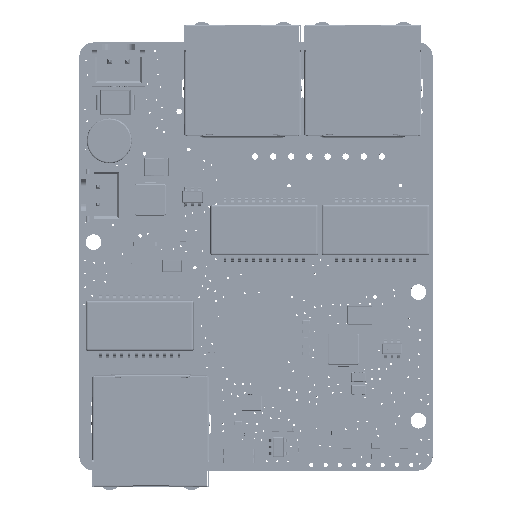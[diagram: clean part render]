
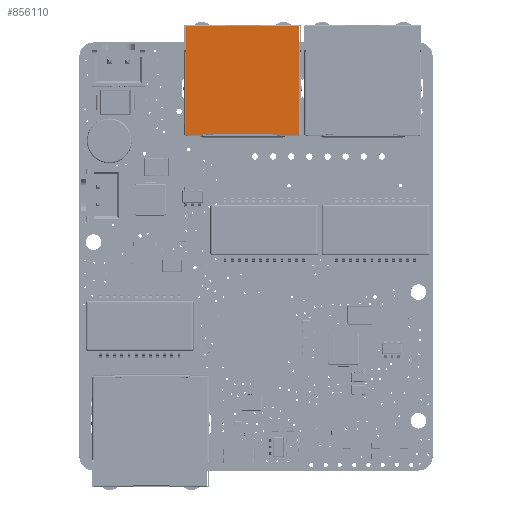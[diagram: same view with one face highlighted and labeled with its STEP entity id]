
A CAD part, top view. The second image highlights one B-rep face of the part: STEP entity #856110.
In plain terms, the highlighted free-form (B-spline) face has degree [1, 1] with [2, 2] control points.
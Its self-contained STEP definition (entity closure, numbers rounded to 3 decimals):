
#826266 = ORIENTED_EDGE('NONE',*,*,#833295,.T.) ;
#826643 = ORIENTED_EDGE('NONE',*,*,#833783,.T.) ;
#828220 = B_SPLINE_CURVE_WITH_KNOTS('NONE',3,(#859156,#860155,#871281,#840775,#856315,#859900),.UNSPECIFIED.,.F.,.F.,(4,2,4),(0.,0.5,1.),.UNSPECIFIED.) ;
#828723 = ORIENTED_EDGE('NONE',*,*,#841971,.F.) ;
#828810=CARTESIAN_POINT('NONE',(-4.809,15.069,12.8));
#829463 = B_SPLINE_SURFACE_WITH_KNOTS('NONE',1,1,((#858016,#830954),(#845871,#861330)),.UNSPECIFIED.,.F.,.F.,.F.,(2,2),(2,2),(-0.303,15.459),(-0.318,16.218),.UNSPECIFIED.) ;
#829900 = VERTEX_POINT('NONE',#865377) ;
#830954=CARTESIAN_POINT('NONE',(8.268,-0.253,12.8));
#832320=CARTESIAN_POINT('NONE',(7.95,0.05,12.8));
#832847=CARTESIAN_POINT('NONE',(-7.95,15.206,12.8));
#833293=CARTESIAN_POINT('NONE',(7.95,3.561,12.8));
#833295 = EDGE_CURVE('NONE',#843823,#829900,#835496,.T.) ;
#833783 = EDGE_CURVE('NONE',#850740,#867604,#834216,.T.) ;
#834139=CARTESIAN_POINT('NONE',(-2.5,0.05,12.8));
#834216 = B_SPLINE_CURVE_WITH_KNOTS('NONE',3,(#858455,#871808,#852044,#860198,#828810,#836743),.UNSPECIFIED.,.F.,.F.,(4,2,4),(0.,0.5,1.),.UNSPECIFIED.) ;
#834604 = EDGE_CURVE('NONE',#857377,#841663,#861496,.T.) ;
#834661=CARTESIAN_POINT('NONE',(2.5,0.05,12.8));
#834910=CARTESIAN_POINT('NONE',(-7.95,15.206,12.8));
#835392=CARTESIAN_POINT('NONE',(-4.956,15.206,12.8));
#835496 = B_SPLINE_CURVE_WITH_KNOTS('NONE',1,(#834661,#868731),.UNSPECIFIED.,.F.,.F.,(2,2),(0.,1.),.UNSPECIFIED.) ;
#835550 = VERTEX_POINT('NONE',#861234) ;
#836290 = ORIENTED_EDGE('NONE',*,*,#852680,.T.) ;
#836579 = EDGE_CURVE('NONE',#867604,#856640,#849186,.T.) ;
#836743=CARTESIAN_POINT('NONE',(-4.767,15.07,12.8));
#836944=CARTESIAN_POINT('NONE',(7.95,0.05,12.8));
#837140 = ORIENTED_EDGE('NONE',*,*,#836579,.T.) ;
#839910 = EDGE_CURVE('NONE',#835550,#849646,#850449,.T.) ;
#839942=CARTESIAN_POINT('NONE',(-4.767,15.07,12.8));
#840439=CARTESIAN_POINT('NONE',(-7.95,0.05,12.8));
#840775=CARTESIAN_POINT('NONE',(5.485,15.133,12.8));
#840958 = FACE_OUTER_BOUND('NONE',#844378,.T.) ;
#841663 = VERTEX_POINT('NONE',#845403) ;
#841971 = EDGE_CURVE('NONE',#857377,#829900,#862952,.T.) ;
#843823 = VERTEX_POINT('NONE',#868999) ;
#843899=CARTESIAN_POINT('NONE',(7.95,3.561,12.8));
#844378 = EDGE_LOOP('NONE',(#826266,#828723,#857255,#844505,#857151,#826643,#837140,#836290,#869562,#854253,#873247,#853549)) ;
#844505 = ORIENTED_EDGE('NONE',*,*,#846140,.T.) ;
#844993=CARTESIAN_POINT('NONE',(2.5,0.05,12.8));
#845403=CARTESIAN_POINT('NONE',(-7.95,3.561,12.8));
#845871=CARTESIAN_POINT('NONE',(-8.268,15.509,12.8));
#846140 = EDGE_CURVE('NONE',#841663,#860808,#874687,.T.) ;
#849186 = B_SPLINE_CURVE_WITH_KNOTS('NONE',1,(#839942,#875036),.UNSPECIFIED.,.F.,.F.,(2,2),(0.,1.),.UNSPECIFIED.) ;
#849646 = VERTEX_POINT('NONE',#833293) ;
#849833 = B_SPLINE_CURVE_WITH_KNOTS('NONE',1,(#843899,#832320),.UNSPECIFIED.,.F.,.F.,(2,2),(0.,1.),.UNSPECIFIED.) ;
#850449 = B_SPLINE_CURVE_WITH_KNOTS('NONE',1,(#873192,#866824),.UNSPECIFIED.,.F.,.F.,(2,2),(0.,1.),.UNSPECIFIED.) ;
#850740 = VERTEX_POINT('NONE',#835392) ;
#852044=CARTESIAN_POINT('NONE',(-4.919,15.133,12.8));
#852680 = EDGE_CURVE('NONE',#856640,#875072,#828220,.T.) ;
#853097=CARTESIAN_POINT('NONE',(-4.956,15.206,12.8));
#853308=CARTESIAN_POINT('NONE',(7.95,0.05,12.8));
#853549 = ORIENTED_EDGE('NONE',*,*,#871749,.F.) ;
#853679=CARTESIAN_POINT('NONE',(-7.95,15.206,12.8));
#854253 = ORIENTED_EDGE('NONE',*,*,#839910,.T.) ;
#855136 = B_SPLINE_CURVE_WITH_KNOTS('NONE',1,(#844993,#853308),.UNSPECIFIED.,.F.,.F.,(2,2),(0.,1.),.UNSPECIFIED.) ;
#855700 = VERTEX_POINT('NONE',#836944) ;
#856110 = ADVANCED_FACE('NONE',(#840958),#829463,.T.) ;
#856315=CARTESIAN_POINT('NONE',(5.51,15.166,12.8));
#856328=CARTESIAN_POINT('NONE',(-7.95,3.561,12.8));
#856640 = VERTEX_POINT('NONE',#873680) ;
#857151 = ORIENTED_EDGE('NONE',*,*,#871238,.T.) ;
#857255 = ORIENTED_EDGE('NONE',*,*,#834604,.T.) ;
#857377 = VERTEX_POINT('NONE',#858394) ;
#858016=CARTESIAN_POINT('NONE',(-8.268,-0.253,12.8));
#858056=CARTESIAN_POINT('NONE',(5.522,15.206,12.8));
#858394=CARTESIAN_POINT('NONE',(-7.95,0.05,12.8));
#858455=CARTESIAN_POINT('NONE',(-4.956,15.206,12.8));
#859142=CARTESIAN_POINT('NONE',(5.522,15.206,12.8));
#859156=CARTESIAN_POINT('NONE',(5.333,15.07,12.8));
#859900=CARTESIAN_POINT('NONE',(5.522,15.206,12.8));
#860155=CARTESIAN_POINT('NONE',(5.375,15.069,12.8));
#860198=CARTESIAN_POINT('NONE',(-4.848,15.082,12.8));
#860808 = VERTEX_POINT('NONE',#853679) ;
#861102 = EDGE_CURVE('NONE',#849646,#855700,#849833,.T.) ;
#861234=CARTESIAN_POINT('NONE',(7.95,15.206,12.8));
#861330=CARTESIAN_POINT('NONE',(8.268,15.509,12.8));
#861496 = B_SPLINE_CURVE_WITH_KNOTS('NONE',1,(#840439,#874534),.UNSPECIFIED.,.F.,.F.,(2,2),(0.,1.),.UNSPECIFIED.) ;
#862365 = B_SPLINE_CURVE_WITH_KNOTS('NONE',1,(#859142,#874634),.UNSPECIFIED.,.F.,.F.,(2,2),(0.,1.),.UNSPECIFIED.) ;
#862952 = B_SPLINE_CURVE_WITH_KNOTS('NONE',1,(#869218,#834139),.UNSPECIFIED.,.F.,.F.,(2,2),(0.,1.),.UNSPECIFIED.) ;
#865377=CARTESIAN_POINT('NONE',(-2.5,0.05,12.8));
#866824=CARTESIAN_POINT('NONE',(7.95,3.561,12.8));
#867604 = VERTEX_POINT('NONE',#875196) ;
#868372 = EDGE_CURVE('NONE',#875072,#835550,#862365,.T.) ;
#868731=CARTESIAN_POINT('NONE',(-2.5,0.05,12.8));
#868999=CARTESIAN_POINT('NONE',(2.5,0.05,12.8));
#869218=CARTESIAN_POINT('NONE',(-7.95,0.05,12.8));
#869562 = ORIENTED_EDGE('NONE',*,*,#868372,.T.) ;
#871238 = EDGE_CURVE('NONE',#860808,#850740,#872759,.T.) ;
#871281=CARTESIAN_POINT('NONE',(5.414,15.082,12.8));
#871749 = EDGE_CURVE('NONE',#843823,#855700,#855136,.T.) ;
#871808=CARTESIAN_POINT('NONE',(-4.943,15.166,12.8));
#872759 = B_SPLINE_CURVE_WITH_KNOTS('NONE',1,(#834910,#853097),.UNSPECIFIED.,.F.,.F.,(2,2),(0.,1.),.UNSPECIFIED.) ;
#873192=CARTESIAN_POINT('NONE',(7.95,15.206,12.8));
#873247 = ORIENTED_EDGE('NONE',*,*,#861102,.T.) ;
#873680=CARTESIAN_POINT('NONE',(5.333,15.07,12.8));
#874534=CARTESIAN_POINT('NONE',(-7.95,3.561,12.8));
#874634=CARTESIAN_POINT('NONE',(7.95,15.206,12.8));
#874687 = B_SPLINE_CURVE_WITH_KNOTS('NONE',1,(#856328,#832847),.UNSPECIFIED.,.F.,.F.,(2,2),(0.,1.),.UNSPECIFIED.) ;
#875036=CARTESIAN_POINT('NONE',(5.333,15.07,12.8));
#875072 = VERTEX_POINT('NONE',#858056) ;
#875196=CARTESIAN_POINT('NONE',(-4.767,15.07,12.8));
